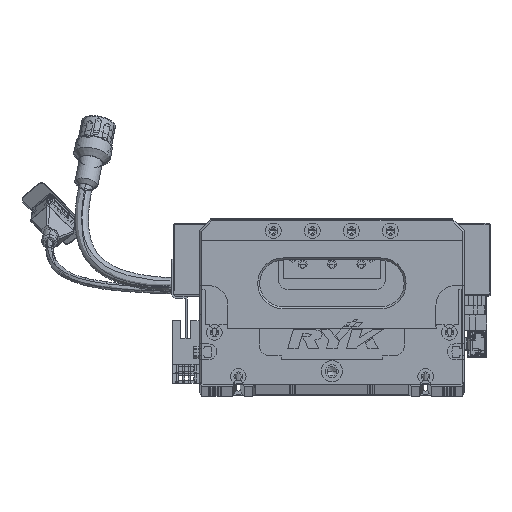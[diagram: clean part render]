
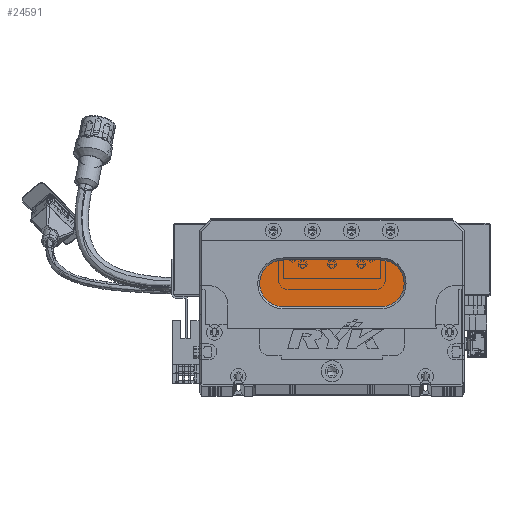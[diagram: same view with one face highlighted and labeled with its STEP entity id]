
A CAD part, top view. The second image highlights one B-rep face of the part: STEP entity #24591.
In plain terms, the highlighted planar face has unit normal (0, 0, 1) as drawn and (0, 0, -1) by its records, which use the part's own axes.
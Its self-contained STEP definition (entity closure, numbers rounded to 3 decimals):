
#275 = DIRECTION ( 'NONE',  ( -1., 0., 0. ) ) ;
#6855 = AXIS2_PLACEMENT_3D ( 'NONE', #56937, #11049, #66920 ) ;
#7858 = VERTEX_POINT ( 'NONE', #145574 ) ;
#9978 = ORIENTED_EDGE ( 'NONE', *, *, #106209, .T. ) ;
#10505 = DIRECTION ( 'NONE',  ( -1., 0., 0. ) ) ;
#11049 = DIRECTION ( 'NONE',  ( 0., 0., -1. ) ) ;
#24591 = ADVANCED_FACE ( 'NONE', ( #129688 ), #120810, .T. ) ;
#37285 = CARTESIAN_POINT ( 'NONE',  ( 93., 64., 13. ) ) ;
#39876 = EDGE_CURVE ( 'NONE', #132545, #7858, #57927, .T. ) ;
#42605 = DIRECTION ( 'NONE',  ( 0., 0., -1. ) ) ;
#43424 = EDGE_CURVE ( 'NONE', #145527, #132545, #101330, .T. ) ;
#46854 = AXIS2_PLACEMENT_3D ( 'NONE', #123179, #42605, #10505 ) ;
#49623 = ORIENTED_EDGE ( 'NONE', *, *, #91184, .T. ) ;
#53141 = CARTESIAN_POINT ( 'NONE',  ( 43., 52., 13. ) ) ;
#56522 = VECTOR ( 'NONE', #90105, 1000. ) ;
#56937 = CARTESIAN_POINT ( 'NONE',  ( 93., 52., 13. ) ) ;
#57233 = CARTESIAN_POINT ( 'NONE',  ( 43., 40., 13. ) ) ;
#57567 = ORIENTED_EDGE ( 'NONE', *, *, #75986, .T. ) ;
#57927 = CIRCLE ( 'NONE', #62544, 12. ) ;
#62544 = AXIS2_PLACEMENT_3D ( 'NONE', #113839, #113356, #124749 ) ;
#66920 = DIRECTION ( 'NONE',  ( -1., 0., 0. ) ) ;
#67928 = CARTESIAN_POINT ( 'NONE',  ( 93., 64., 13. ) ) ;
#68810 = CARTESIAN_POINT ( 'NONE',  ( 93., 40., 13. ) ) ;
#75986 = EDGE_CURVE ( 'NONE', #95681, #76132, #111536, .T. ) ;
#76132 = VERTEX_POINT ( 'NONE', #68810 ) ;
#85811 = DIRECTION ( 'NONE',  ( 0., 0., -1. ) ) ;
#87024 = EDGE_LOOP ( 'NONE', ( #57567, #9978, #136894, #119433, #49623 ) ) ;
#87850 = LINE ( 'NONE', #102402, #130312 ) ;
#90105 = DIRECTION ( 'NONE',  ( 1., 0., 0. ) ) ;
#90667 = AXIS2_PLACEMENT_3D ( 'NONE', #53141, #85811, #275 ) ;
#91184 = EDGE_CURVE ( 'NONE', #7858, #95681, #120238, .T. ) ;
#95681 = VERTEX_POINT ( 'NONE', #37285 ) ;
#101330 = CIRCLE ( 'NONE', #90667, 12. ) ;
#102402 = CARTESIAN_POINT ( 'NONE',  ( 93., 40., 13. ) ) ;
#106209 = EDGE_CURVE ( 'NONE', #76132, #145527, #87850, .T. ) ;
#109447 = CARTESIAN_POINT ( 'NONE',  ( 31., 52., 13. ) ) ;
#111536 = CIRCLE ( 'NONE', #46854, 12. ) ;
#113356 = DIRECTION ( 'NONE',  ( 0., 0., -1. ) ) ;
#113839 = CARTESIAN_POINT ( 'NONE',  ( 43., 52., 13. ) ) ;
#119433 = ORIENTED_EDGE ( 'NONE', *, *, #39876, .T. ) ;
#120238 = LINE ( 'NONE', #67928, #56522 ) ;
#120810 = PLANE ( 'NONE',  #6855 ) ;
#123179 = CARTESIAN_POINT ( 'NONE',  ( 93., 52., 13. ) ) ;
#124749 = DIRECTION ( 'NONE',  ( -1., 0., 0. ) ) ;
#129688 = FACE_OUTER_BOUND ( 'NONE', #87024, .T. ) ;
#130312 = VECTOR ( 'NONE', #137086, 1000. ) ;
#132545 = VERTEX_POINT ( 'NONE', #109447 ) ;
#136894 = ORIENTED_EDGE ( 'NONE', *, *, #43424, .T. ) ;
#137086 = DIRECTION ( 'NONE',  ( -1., 0., 0. ) ) ;
#145527 = VERTEX_POINT ( 'NONE', #57233 ) ;
#145574 = CARTESIAN_POINT ( 'NONE',  ( 43., 64., 13. ) ) ;
